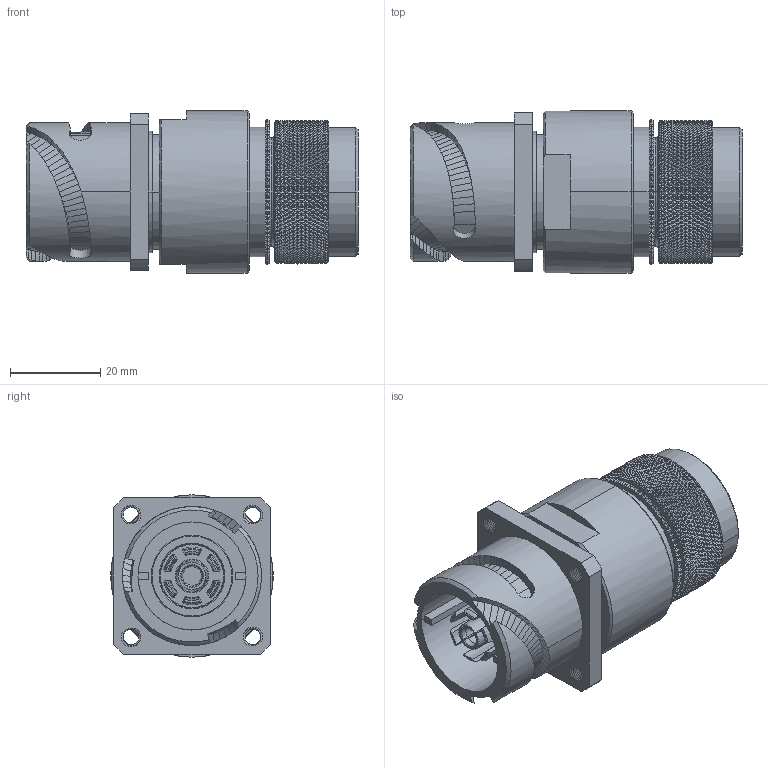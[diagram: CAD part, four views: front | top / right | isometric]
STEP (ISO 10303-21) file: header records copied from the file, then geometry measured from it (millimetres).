
FILE_DESCRIPTION((''),'2;1');
FILE_NAME('GCE3100E18M50S-B-T14_SW0001','2023-06-01T14:13:03',('paultorloting'),('NET AG system integration'),'CREO PARAMETRIC BY PTC INC, 2021404','CREO PARAMETRIC BY PTC INC, 2021404','');
FILE_SCHEMA(('AUTOMOTIVE_DESIGN { 1 0 10303 214 1 1 1 1 }'));
Products named in the file (1): GCE3100E18M50S-B-T14_SW0001
Bounding box: 73.6 x 36 x 36 mm (x, y, z)
Volume: 50121.5 mm3; surface area: 17026.8 mm2
Topology: 1 solids, 2 shells, 7504 faces, 13778 edges, 6312 vertices
Faces by surface type: bspline 5664, plane 1625, cylinder 122, cone 53, torus 40
Entity records: 272301 total; most frequent: CARTESIAN_POINT 159495, ORIENTED_EDGE 27556, EDGE_CURVE 13778, B_SPLINE_CURVE_WITH_KNOTS 9848, DIRECTION 7861, EDGE_LOOP 7550, FACE_OUTER_BOUND 7504, ADVANCED_FACE 7504
